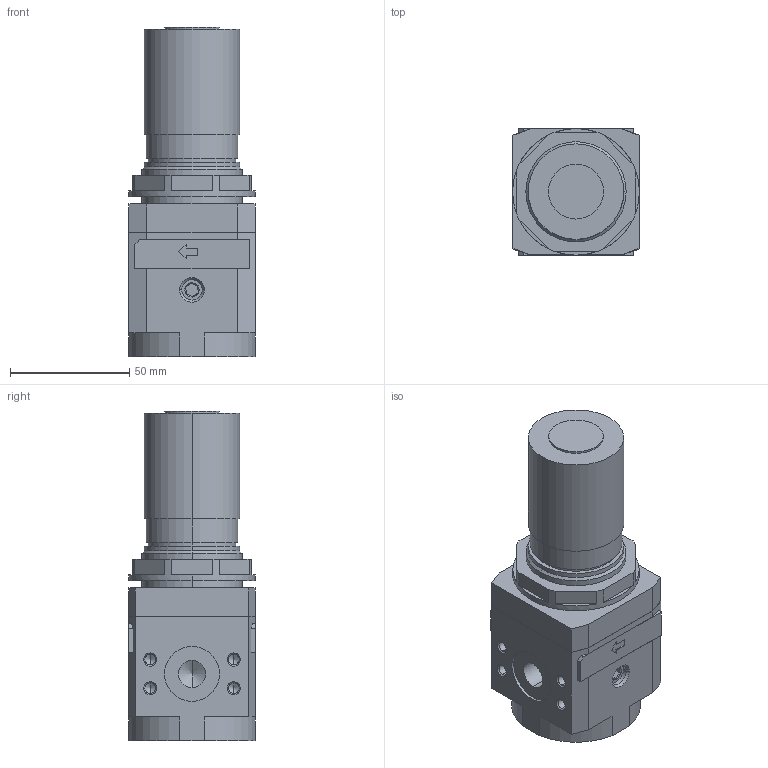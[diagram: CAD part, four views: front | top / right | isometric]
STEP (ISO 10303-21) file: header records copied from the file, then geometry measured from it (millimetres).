
FILE_DESCRIPTION((''),'2;1');
FILE_NAME('I:\DOC-EDP\Lib-3d\FRL\17222A_.stp','2003-06-16T14:56:34',('maffial1'),(''),'Autodesk Inventor 7','Autodesk Inventor 7','');
FILE_SCHEMA(('AUTOMOTIVE_DESIGN { 1 0 10303 214 1 1 1 1 }'));
Length unit declared in the file: millimetre
Products named in the file (4): 17222A_; 17222A_(1); RS_1702_12; RK_1701_020
Assembly tree (3 placements, depth 2):
  17222A_
    17222A_(1)
    RS_1702_12
    RK_1701_020
Bounding box: 53 x 53 x 138 mm (x, y, z)
Volume: 264012.8 mm3; surface area: 41432.4 mm2
Topology: 3 solids, 5 shells, 222 faces, 539 edges, 329 vertices
Faces by surface type: bspline 96, plane 80, cylinder 30, cone 12, torus 4
Entity records: 7320 total; most frequent: CARTESIAN_POINT 2393, ORIENTED_EDGE 1030, DIRECTION 940, EDGE_CURVE 515, VECTOR 332, LINE 332, VERTEX_POINT 329, AXIS2_PLACEMENT_3D 304
